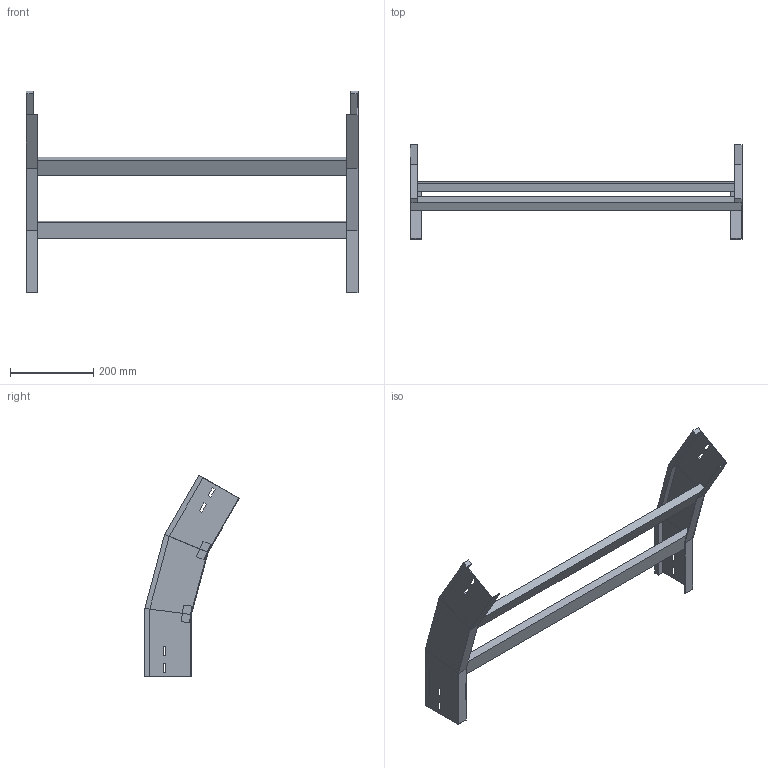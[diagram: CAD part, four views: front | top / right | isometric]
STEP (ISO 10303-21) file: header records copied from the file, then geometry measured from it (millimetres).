
FILE_DESCRIPTION (( 'STEP AP214' ), '1' );
FILE_NAME ('A2_35B3J800.step', '2025-02-21T14:48:14', ( '' ), ( '' ), 'SwSTEP 2.0', 'SolidWorks 2023', '' );
FILE_SCHEMA (( 'AUTOMOTIVE_DESIGN' ));
Length unit declared in the file: millimetre
Products named in the file (3): TRAVERSINO_800; A2_35B3J800; LONGH.DISCESA_30°_H112.5_R300
Assembly tree (5 placements, depth 2):
  A2_35B3J800
    LONGH.DISCESA_30°_H112.5_R300  x2
    TRAVERSINO_800  x3
Bounding box: 800 x 227.62 x 485.87 mm (x, y, z)
Volume: 2391704.7 mm3; surface area: 594358.8 mm2
Topology: 5 solids, 5 shells, 102 faces, 244 edges, 152 vertices
Faces by surface type: plane 102
Entity records: 1480 total; most frequent: CARTESIAN_POINT 244, ORIENTED_EDGE 232, DIRECTION 228, EDGE_CURVE 116, VECTOR 116, LINE 116, VERTEX_POINT 72, AXIS2_PLACEMENT_3D 56
